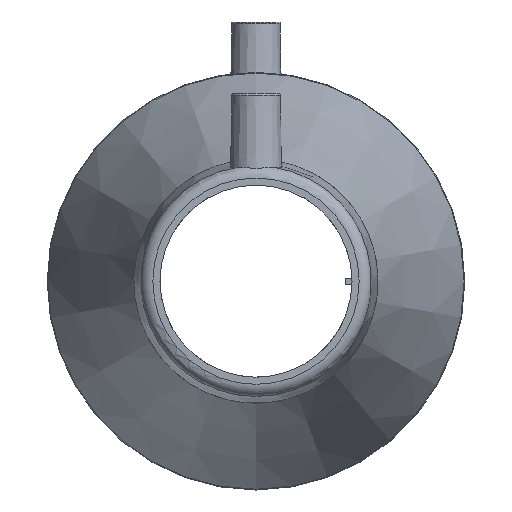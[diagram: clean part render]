
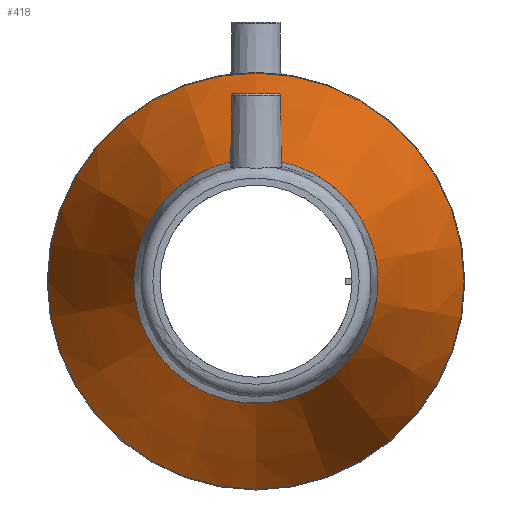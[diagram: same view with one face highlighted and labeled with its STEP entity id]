
A CAD part, left-side view. The second image highlights one B-rep face of the part: STEP entity #418.
In plain terms, the highlighted conical face has half-angle 20.072 degrees and reference radius 68.5 mm.
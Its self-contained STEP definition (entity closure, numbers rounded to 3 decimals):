
#77=CIRCLE('',#475,40.);
#78=CIRCLE('',#476,68.257);
#113=ORIENTED_EDGE('',*,*,#201,.F.);
#114=ORIENTED_EDGE('',*,*,#202,.T.);
#201=EDGE_CURVE('',#245,#245,#77,.T.);
#202=EDGE_CURVE('',#246,#246,#78,.T.);
#245=VERTEX_POINT('',#726);
#246=VERTEX_POINT('',#728);
#287=EDGE_LOOP('',(#113));
#288=EDGE_LOOP('',(#114));
#352=FACE_BOUND('',#287,.T.);
#353=FACE_BOUND('',#288,.T.);
#409=CONICAL_SURFACE('',#474,68.5,0.35);
#418=ADVANCED_FACE('',(#352,#353),#409,.T.);
#474=AXIS2_PLACEMENT_3D('',#724,#554,#555);
#475=AXIS2_PLACEMENT_3D('',#725,#556,#557);
#476=AXIS2_PLACEMENT_3D('',#727,#558,#559);
#554=DIRECTION('',(1.,0.,0.));
#555=DIRECTION('',(0.,0.,-1.));
#556=DIRECTION('',(-1.,0.,0.));
#557=DIRECTION('',(0.,0.,1.));
#558=DIRECTION('',(-1.,0.,0.));
#559=DIRECTION('',(0.,0.,1.));
#724=CARTESIAN_POINT('',(39.,0.,0.));
#725=CARTESIAN_POINT('',(-39.,0.,0.));
#726=CARTESIAN_POINT('',(-39.,0.,40.));
#727=CARTESIAN_POINT('',(38.335,0.,0.));
#728=CARTESIAN_POINT('',(38.335,0.,68.257));
